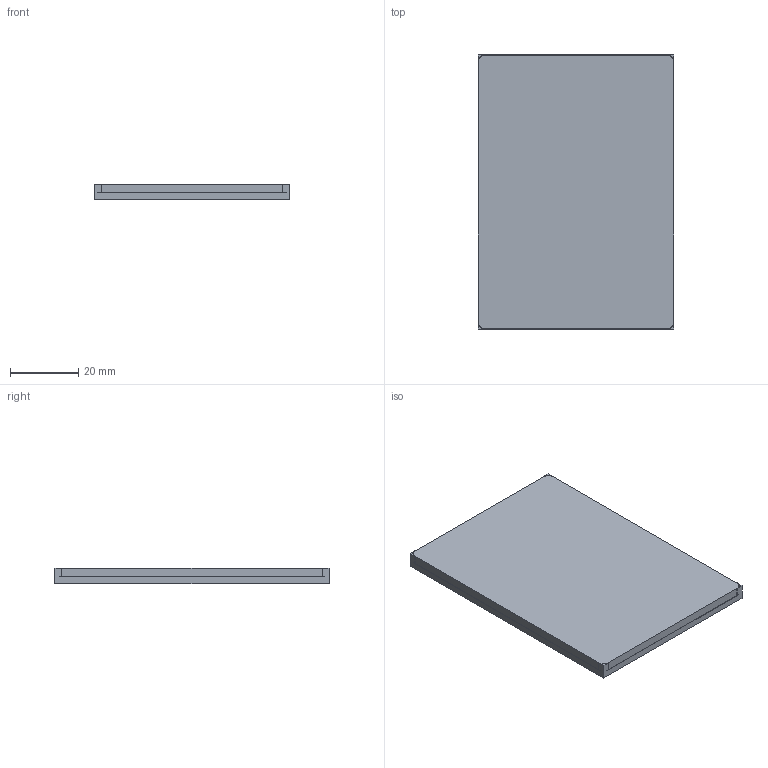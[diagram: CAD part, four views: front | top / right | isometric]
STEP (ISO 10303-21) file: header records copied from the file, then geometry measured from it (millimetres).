
FILE_DESCRIPTION(('Open CASCADE Model'),'2;1');
FILE_NAME('Open CASCADE Shape Model','2026-05-31T19:42:51',('Author'),( 'Open CASCADE'),'Open CASCADE STEP processor 7.6','Open CASCADE 7.6' ,'Unknown');
FILE_SCHEMA(('AP242_MANAGED_MODEL_BASED_3D_ENGINEERING_MIM_LF. {1 0 10303 442 1 1 4 }'));
Length unit declared in the file: millimetre
Products named in the file (2): Socket; Part
Bounding box: 57.1 x 80.1 x 4.5 mm (x, y, z)
Volume: 20526.8 mm3; surface area: 15196.2 mm2
Topology: 2 solids, 2 shells, 41 faces, 108 edges, 72 vertices
Faces by surface type: plane 25, cylinder 16
Entity records: 2728 total; most frequent: CARTESIAN_POINT 518, DIRECTION 420, LINE 252, VECTOR 252, ORIENTED_EDGE 216, PCURVE 216, DEFINITIONAL_REPRESENTATION 216, EDGE_CURVE 108
